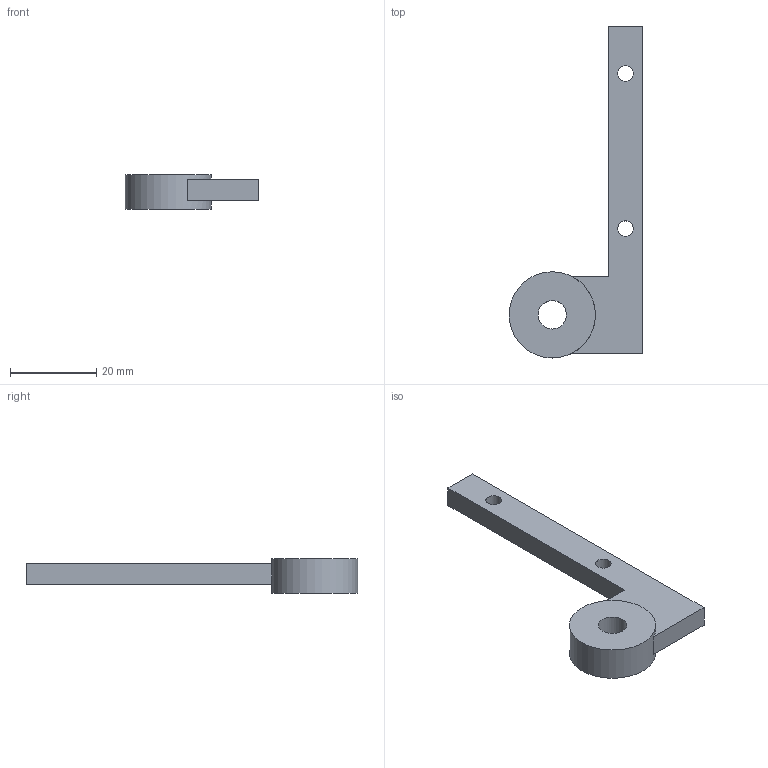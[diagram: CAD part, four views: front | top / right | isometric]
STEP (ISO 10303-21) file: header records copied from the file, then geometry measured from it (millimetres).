
FILE_DESCRIPTION(('Open CASCADE Model'),'2;1');
FILE_NAME('Open CASCADE Shape Model','2026-09-20T04:25:33',('Author'),( 'Open CASCADE'),'Open CASCADE STEP processor 7.9','Open CASCADE 7.9' ,'Unknown');
FILE_SCHEMA(('AUTOMOTIVE_DESIGN { 1 0 10303 214 1 1 1 1 }'));
Length unit declared in the file: millimetre
Products named in the file (1): Open CASCADE STEP translator 7.9 3
Bounding box: 31 x 77 x 8 mm (x, y, z)
Volume: 5591.8 mm3; surface area: 3406.8 mm2
Topology: 1 solids, 1 shells, 13 faces, 33 edges, 22 vertices
Faces by surface type: plane 9, cylinder 4
Full cylindrical faces by diameter (mm): 3.6 x2, 6.6 x1, 20 x1
Entity records: 845 total; most frequent: CARTESIAN_POINT 140, DIRECTION 134, LINE 70, VECTOR 70, ORIENTED_EDGE 66, PCURVE 66, DEFINITIONAL_REPRESENTATION 66, EDGE_CURVE 33
